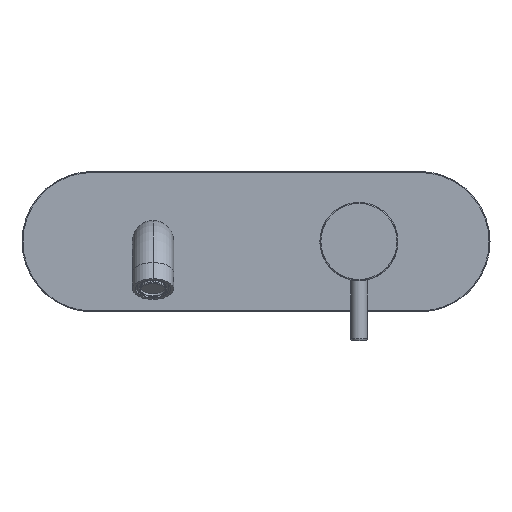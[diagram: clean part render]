
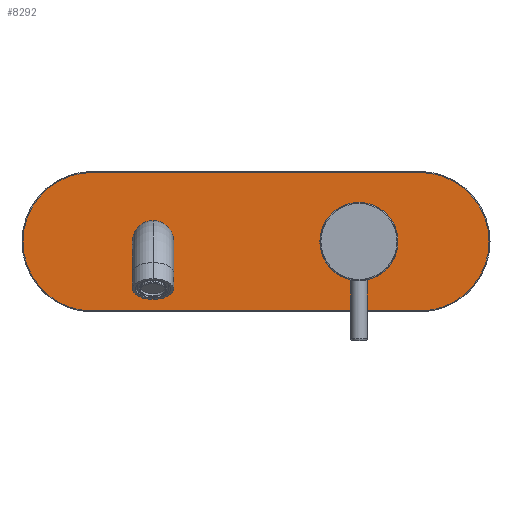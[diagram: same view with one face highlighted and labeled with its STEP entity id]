
A CAD part, top view. The second image highlights one B-rep face of the part: STEP entity #8292.
In plain terms, the highlighted planar face has unit normal (0, 0, 1).
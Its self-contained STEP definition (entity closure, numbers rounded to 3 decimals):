
#4010=CARTESIAN_POINT('',(-144.5,0.,49.1));
#4011=DIRECTION('',(0.,0.,1.));
#4012=DIRECTION('',(0.,1.,0.));
#4013=AXIS2_PLACEMENT_3D('',#4010,#4011,#4012);
#4015=DIRECTION('',(-1.,0.,0.));
#4016=VECTOR('',#4015,175.);
#4017=CARTESIAN_POINT('',(30.5,37.,49.1));
#4018=LINE('',#4017,#4016);
#4019=CARTESIAN_POINT('',(30.5,0.,49.1));
#4020=DIRECTION('',(0.,0.,1.));
#4021=DIRECTION('',(0.,-1.,0.));
#4022=AXIS2_PLACEMENT_3D('',#4019,#4020,#4021);
#4024=DIRECTION('',(1.,0.,0.));
#4025=VECTOR('',#4024,175.);
#4026=CARTESIAN_POINT('',(-144.5,-37.,49.1));
#4027=LINE('',#4026,#4025);
#4028=CARTESIAN_POINT('',(-2.,0.,49.1));
#4029=DIRECTION('',(0.,0.,1.));
#4030=DIRECTION('',(1.,0.,0.));
#4031=AXIS2_PLACEMENT_3D('',#4028,#4029,#4030);
#4033=CARTESIAN_POINT('',(-2.,0.,49.1));
#4034=DIRECTION('',(0.,0.,1.));
#4035=DIRECTION('',(-1.,0.,0.));
#4036=AXIS2_PLACEMENT_3D('',#4033,#4034,#4035);
#4038=CARTESIAN_POINT('',(-112.,0.,49.1));
#4039=DIRECTION('',(0.,0.,1.));
#4040=DIRECTION('',(0.,1.,0.));
#4041=AXIS2_PLACEMENT_3D('',#4038,#4039,#4040);
#4043=CARTESIAN_POINT('',(-112.,0.,49.1));
#4044=DIRECTION('',(0.,0.,1.));
#4045=DIRECTION('',(0.,-1.,0.));
#4046=AXIS2_PLACEMENT_3D('',#4043,#4044,#4045);
#5776=CARTESIAN_POINT('',(-144.5,37.,49.1));
#5777=CARTESIAN_POINT('',(-144.5,-37.,49.1));
#5778=VERTEX_POINT('',#5776);
#5779=VERTEX_POINT('',#5777);
#5784=CARTESIAN_POINT('',(30.5,-37.,49.1));
#5785=VERTEX_POINT('',#5784);
#5788=CARTESIAN_POINT('',(30.5,37.,49.1));
#5789=VERTEX_POINT('',#5788);
#5800=CARTESIAN_POINT('',(18.25,0.,49.1));
#5801=CARTESIAN_POINT('',(-22.25,0.,49.1));
#5802=VERTEX_POINT('',#5800);
#5803=VERTEX_POINT('',#5801);
#5932=CARTESIAN_POINT('',(-112.,11.,49.1));
#5933=CARTESIAN_POINT('',(-112.,-11.,49.1));
#5934=VERTEX_POINT('',#5932);
#5935=VERTEX_POINT('',#5933);
#8266=CARTESIAN_POINT('',(-57.,0.,49.1));
#8267=DIRECTION('',(0.,0.,1.));
#8268=DIRECTION('',(1.,0.,0.));
#8269=AXIS2_PLACEMENT_3D('',#8266,#8267,#8268);
#8270=PLANE('',#8269);
#8272=ORIENTED_EDGE('',*,*,#8271,.F.);
#8274=ORIENTED_EDGE('',*,*,#8273,.F.);
#8276=ORIENTED_EDGE('',*,*,#8275,.F.);
#8278=ORIENTED_EDGE('',*,*,#8277,.F.);
#8279=EDGE_LOOP('',(#8272,#8274,#8276,#8278));
#8280=FACE_OUTER_BOUND('',#8279,.F.);
#8282=ORIENTED_EDGE('',*,*,#8281,.T.);
#8284=ORIENTED_EDGE('',*,*,#8283,.T.);
#8285=EDGE_LOOP('',(#8282,#8284));
#8286=FACE_BOUND('',#8285,.F.);
#8288=ORIENTED_EDGE('',*,*,#8287,.T.);
#8289=ORIENTED_EDGE('',*,*,#8252,.T.);
#8290=EDGE_LOOP('',(#8288,#8289));
#8291=FACE_BOUND('',#8290,.F.);
#8292=ADVANCED_FACE('',(#8280,#8286,#8291),#8270,.T.);
#4014=CIRCLE('',#4013,37.);
#4023=CIRCLE('',#4022,37.);
#4032=CIRCLE('',#4031,20.25);
#4037=CIRCLE('',#4036,20.25);
#4042=CIRCLE('',#4041,11.);
#4047=CIRCLE('',#4046,11.);
#8252=EDGE_CURVE('',#5935,#5934,#4047,.T.);
#8271=EDGE_CURVE('',#5778,#5779,#4014,.T.);
#8273=EDGE_CURVE('',#5789,#5778,#4018,.T.);
#8275=EDGE_CURVE('',#5785,#5789,#4023,.T.);
#8277=EDGE_CURVE('',#5779,#5785,#4027,.T.);
#8281=EDGE_CURVE('',#5802,#5803,#4032,.T.);
#8283=EDGE_CURVE('',#5803,#5802,#4037,.T.);
#8287=EDGE_CURVE('',#5934,#5935,#4042,.T.);
